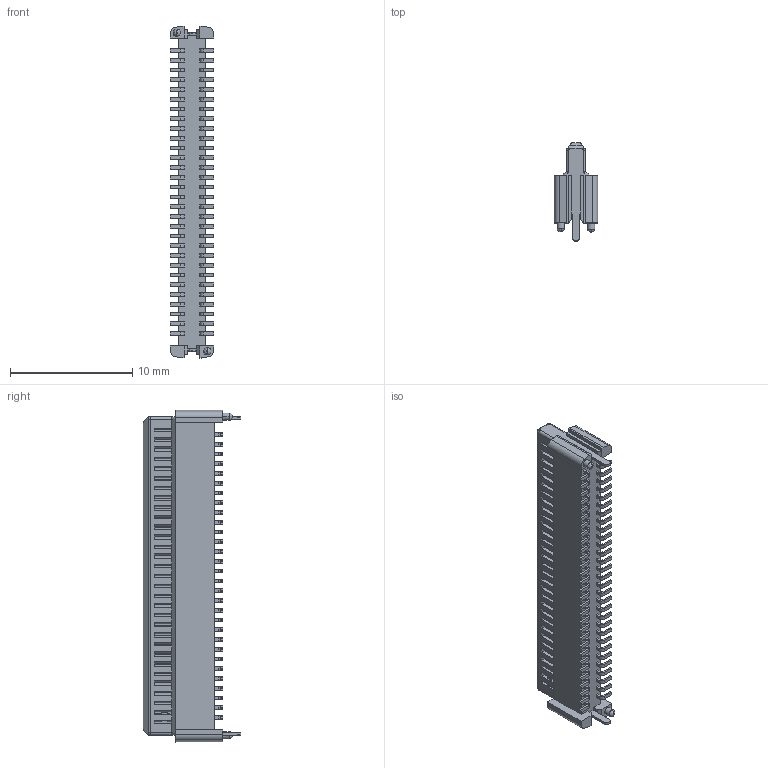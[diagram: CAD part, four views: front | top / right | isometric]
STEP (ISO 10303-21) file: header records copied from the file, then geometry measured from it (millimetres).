
FILE_DESCRIPTION((''),'2;1');
FILE_NAME('1718101112','2016-08-26T',('rlalsangi'),(''),'PRO/ENGINEER BY PARAMETRIC TECHNOLOGY CORPORATION, 2012310','PRO/ENGINEER BY PARAMETRIC TECHNOLOGY CORPORATION, 2012310','');
FILE_SCHEMA(('CONFIG_CONTROL_DESIGN'));
Length unit declared in the file: millimetre
Products named in the file (1): 1718101112
Bounding box: 3.59 x 8 x 27.2 mm (x, y, z)
Volume: 295.9 mm3; surface area: 656 mm2
Topology: 1 solids, 1 shells, 1098 faces, 3223 edges, 2189 vertices
Faces by surface type: plane 938, cylinder 152, bspline 8
Entity records: 35728 total; most frequent: CARTESIAN_POINT 6529, ORIENTED_EDGE 5950, DIRECTION 5697, EDGE_CURVE 2975, VECTOR 2891, LINE 2891, VERTEX_POINT 1941, AXIS2_PLACEMENT_3D 1403
